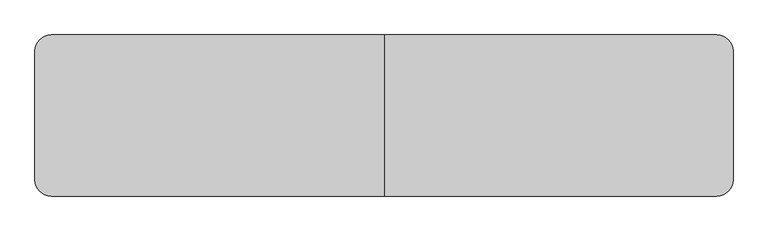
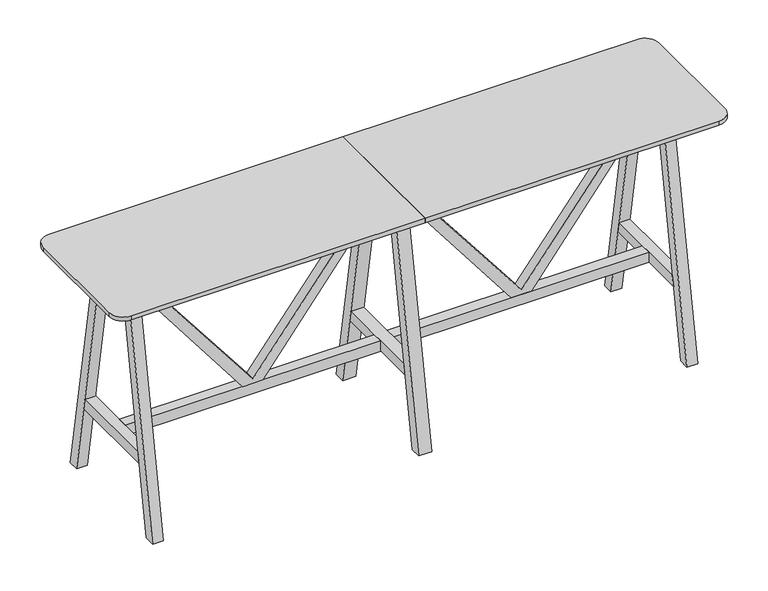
"""IFC4 building model written with IfcOpenShell, lengths in millimetres: furniture geometry, BDG_BossDesign_Tbls_AgentTables6Legs : AGE-HT-6L-2600-600-3D."""

from ifc_helpers import new_model, si_unit, point, frame, frame_2d, origin, place, context, project, spatial, polyline, circle_curve, trimmed, segment, composite_curve, outline, extrude, source, transform, mapped, element, save


def furniture_c70b53db(model_context):
    return source(origin(), model_context, "Body", "SweptSolid", [
        extrude(outline(polyline([(345.0, 524.0823957), (345.0, 608.4176043), (992.0, 1105.0), (1032.0, 1105.0), (1032.0, 1085.0), (365.0, 566.25), (1032.0, 47.5), (1032.0, 27.5), (992.0, 27.5), (345.0, 524.0823957)])), frame((0.0, -22.5000305, 0.0), z_axis=(0.0, 1.0, 0.0), x_axis=(0.0, 0.0, 1.0)), (0.0, 0.0, 1.0), 45.000061),
        extrude(outline(polyline([(345.0, -524.0823957), (992.0, -27.5), (1032.0, -27.5), (1032.0, -47.5), (365.0, -566.25), (1032.0, -1085.0), (1032.0, -1105.0), (992.0, -1105.0), (345.0, -608.4176043), (345.0, -524.0823957)])), frame((0.0, -22.5000305, 0.0), z_axis=(0.0, 1.0, 0.0), x_axis=(0.0, 0.0, 1.0)), (0.0, 0.0, 1.0), 45.000061),
        extrude(outline(polyline([(300.0, 0.0), (254.9999949, 0.0), (85.5, 970.0), (130.5000051, 970.0), (300.0, 0.0)])), frame((-27.5, 0.0, 0.0), z_axis=(1.0, 0.0, 0.0), x_axis=(0.0, 1.0, 0.0)), (0.0, 0.0, 1.0), 55.0),
        extrude(outline(polyline([(-300.0, 0.0), (-130.5000051, 970.0), (-85.5, 970.0), (-254.9999949, 0.0), (-300.0, 0.0)])), frame((-27.5, 0.0, 0.0), z_axis=(1.0, 0.0, 0.0), x_axis=(0.0, 1.0, 0.0)), (0.0, 0.0, 1.0), 55.0),
        extrude(outline(polyline([(202.5773161, 300.0), (-202.5773161, 300.0), (-194.7139143, 345.0), (194.7139143, 345.0), (202.5773161, 300.0)])), frame((-27.5, 0.0, 0.0), z_axis=(1.0, 0.0, 0.0), x_axis=(0.0, 1.0, 0.0)), (0.0, 0.0, 1.0), 55.0),
        extrude(outline(composite_curve([segment(polyline([(0.0, 300.0), (0.0, -300.0), (-1240.0, -300.0)]), True, "CONTINUOUS"), segment(trimmed(circle_curve(frame_2d((-1240.0, -240.0)), 60.0), [point((-1240.0, -300.0))], [point((-1300.0, -240.0))], False, "CARTESIAN"), True, "CONTINUOUS"), segment(polyline([(-1300.0, -240.0), (-1300.0, 240.0)]), True, "CONTINUOUS"), segment(trimmed(circle_curve(frame_2d((-1240.0, 240.0)), 60.0), [point((-1300.0, 240.0))], [point((-1240.0, 300.0))], False, "CARTESIAN"), True, "CONTINUOUS"), segment(polyline([(-1240.0, 300.0), (0.0, 300.0)]), True, "CONTINUOUS")], self_intersect=False)), frame((0.0, 0.0, 1032.0), z_axis=(0.0, 0.0, 1.0), x_axis=(1.0, 0.0, 0.0)), (0.0, 0.0, 1.0), 18.0),
        extrude(outline(polyline([(-194.7139143, 345.0), (194.7139143, 345.0), (202.5773161, 300.0), (-202.5773161, 300.0), (-194.7139143, 345.0)])), frame((1105.0, 0.0, 0.0), z_axis=(1.0, 0.0, 0.0), x_axis=(0.0, 1.0, 0.0)), (0.0, 0.0, 1.0), 45.0),
        extrude(outline(polyline([(300.0, 0.0), (254.9999949, 0.0), (85.5, 970.0), (130.5000051, 970.0), (300.0, 0.0)])), frame((-1150.0, 0.0, 0.0), z_axis=(1.0, 0.0, 0.0), x_axis=(0.0, 1.0, 0.0)), (0.0, 0.0, 1.0), 45.0),
        extrude(outline(polyline([(-300.0, 0.0), (-130.5000051, 970.0), (-85.5, 970.0), (-254.9999949, 0.0), (-300.0, 0.0)])), frame((-1150.0, 0.0, 0.0), z_axis=(1.0, 0.0, 0.0), x_axis=(0.0, 1.0, 0.0)), (0.0, 0.0, 1.0), 45.0),
        extrude(outline(polyline([(-194.7139143, 345.0), (194.7139143, 345.0), (202.5773161, 300.0), (-202.5773161, 300.0), (-194.7139143, 345.0)])), frame((-1150.0, 0.0, 0.0), z_axis=(1.0, 0.0, 0.0), x_axis=(0.0, 1.0, 0.0)), (0.0, 0.0, 1.0), 45.0),
        extrude(outline(polyline([(-126.6006165, 944.973938), (-104.2770691, 1032.0), (-79.5, 1032.0), (-101.8235474, 944.973938), (-126.6006165, 944.973938)])), frame((-1105.0, 0.0, 0.0), z_axis=(1.0, 0.0, 0.0), x_axis=(0.0, 1.0, 0.0)), (0.0, 0.0, 1.0), 2210.0),
        extrude(outline(polyline([(126.6006165, 944.973938), (101.8235474, 944.973938), (79.5, 1032.0), (104.2770691, 1032.0), (126.6006165, 944.973938)])), frame((-1105.0, 0.0, 0.0), z_axis=(1.0, 0.0, 0.0), x_axis=(0.0, 1.0, 0.0)), (0.0, 0.0, 1.0), 2210.0),
        extrude(outline(polyline([(299.7999878, 0.0), (254.7999827, 0.0), (85.5, 970.0), (130.5000051, 970.0), (299.7999878, 0.0)])), frame((1105.0, 0.0, 0.0), z_axis=(1.0, 0.0, 0.0), x_axis=(0.0, 1.0, 0.0)), (0.0, 0.0, 1.0), 45.0),
        extrude(outline(polyline([(-299.7999878, 0.0), (-130.5000051, 970.0), (-85.5, 970.0), (-254.7999827, 0.0), (-299.7999878, 0.0)])), frame((1105.0, 0.0, 0.0), z_axis=(1.0, 0.0, 0.0), x_axis=(0.0, 1.0, 0.0)), (0.0, 0.0, 1.0), 45.0),
        extrude(outline(polyline([(-27.5, 22.5000305), (-27.5, -22.5000305), (-1105.0, -22.5000305), (-1105.0, 22.5000305), (-27.5, 22.5000305)])), frame((0.0, 0.0, 300.0), z_axis=(0.0, 0.0, 1.0), x_axis=(1.0, 0.0, 0.0)), (0.0, 0.0, 1.0), 45.0),
        extrude(outline(polyline([(27.5, -22.5000305), (27.5, 22.5000305), (1105.0, 22.5000305), (1105.0, -22.5000305), (27.5, -22.5000305)])), frame((0.0, 0.0, 300.0), z_axis=(0.0, 0.0, 1.0), x_axis=(1.0, 0.0, 0.0)), (0.0, 0.0, 1.0), 45.0),
        extrude(outline(composite_curve([segment(trimmed(circle_curve(frame_2d((1240.0, 240.0)), 60.0), [point((1240.0, 300.0))], [point((1300.0, 240.0))], False, "CARTESIAN"), True, "CONTINUOUS"), segment(polyline([(1300.0, 240.0), (1300.0, -240.0)]), True, "CONTINUOUS"), segment(trimmed(circle_curve(frame_2d((1240.0, -240.0)), 60.0), [point((1300.0, -240.0))], [point((1240.0, -300.0))], False, "CARTESIAN"), True, "CONTINUOUS"), segment(polyline([(1240.0, -300.0), (0.0, -300.0), (0.0, 300.0), (1240.0, 300.0)]), True, "CONTINUOUS")], self_intersect=False)), frame((0.0, 0.0, 1032.0), z_axis=(0.0, 0.0, 1.0), x_axis=(1.0, 0.0, 0.0)), (0.0, 0.0, 1.0), 18.0),
    ])


if __name__ == "__main__":
    model = new_model("IFC4")
    model_context = context("Model", 3, world=origin())
    ifc_project = project(units=[si_unit("LENGTHUNIT", "METRE", prefix="MILLI")], contexts=[model_context])
    site = spatial("IfcSite", under=ifc_project)
    building = spatial("IfcBuilding", under=site)
    placement = place(None, origin())
    furniture_shape = furniture_c70b53db(model_context)
    element("IfcFurniture", 1, ObjectType="BDG_BossDesign_Tbls_AgentTables6Legs : AGE-HT-6L-2600-600-3D", at=placement, inside=building, context=model_context, shape_type="MappedRepresentation", body=[
        mapped(furniture_shape, transform((0.0, 0.0, 0.0), x_axis=(1.0, 0.0, 0.0), y_axis=(0.0, 1.0, 0.0), z_axis=(0.0, 0.0, 1.0))),
    ])
    save(model, "model.ifc")
